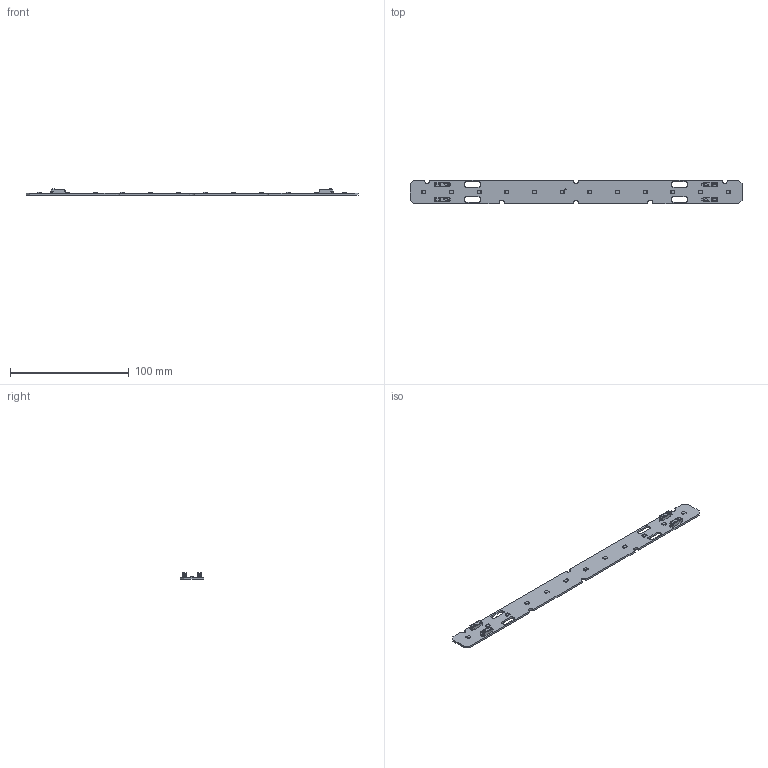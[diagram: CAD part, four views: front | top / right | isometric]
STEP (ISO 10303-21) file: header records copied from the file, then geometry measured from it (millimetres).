
FILE_DESCRIPTION((''),'2;1');
FILE_NAME('16208832_LLE-20X280-4T-650LM','2019-05-09T08:38:43',('bernhard.fink'),(''),'CREO PARAMETRIC BY PTC INC, 2017380','CREO PARAMETRIC BY PTC INC, 2017380','');
FILE_SCHEMA(('AUTOMOTIVE_DESIGN { 1 0 10303 214 1 1 1 1 }'));
Products named in the file (1): 16208832_LLE-20X280-4T-650LM
Bounding box: 279 x 19.8 x 5.05 mm (x, y, z)
Surface area: 12811.2 mm2 (no closed solid volume)
Topology: 0 solids, 21 shells, 1351 faces, 3747 edges, 2412 vertices
Faces by surface type: plane 674, cylinder 321, bspline 228, cone 68, torus 36, sphere 24
Entity records: 71167 total; most frequent: CARTESIAN_POINT 20480, ORIENTED_EDGE 7242, DIRECTION 5471, PRESENTATION_STYLE_ASSIGNMENT 4773, STYLED_ITEM 3756, CURVE_STYLE 3735, EDGE_CURVE 3735, VERTEX_POINT 2412
